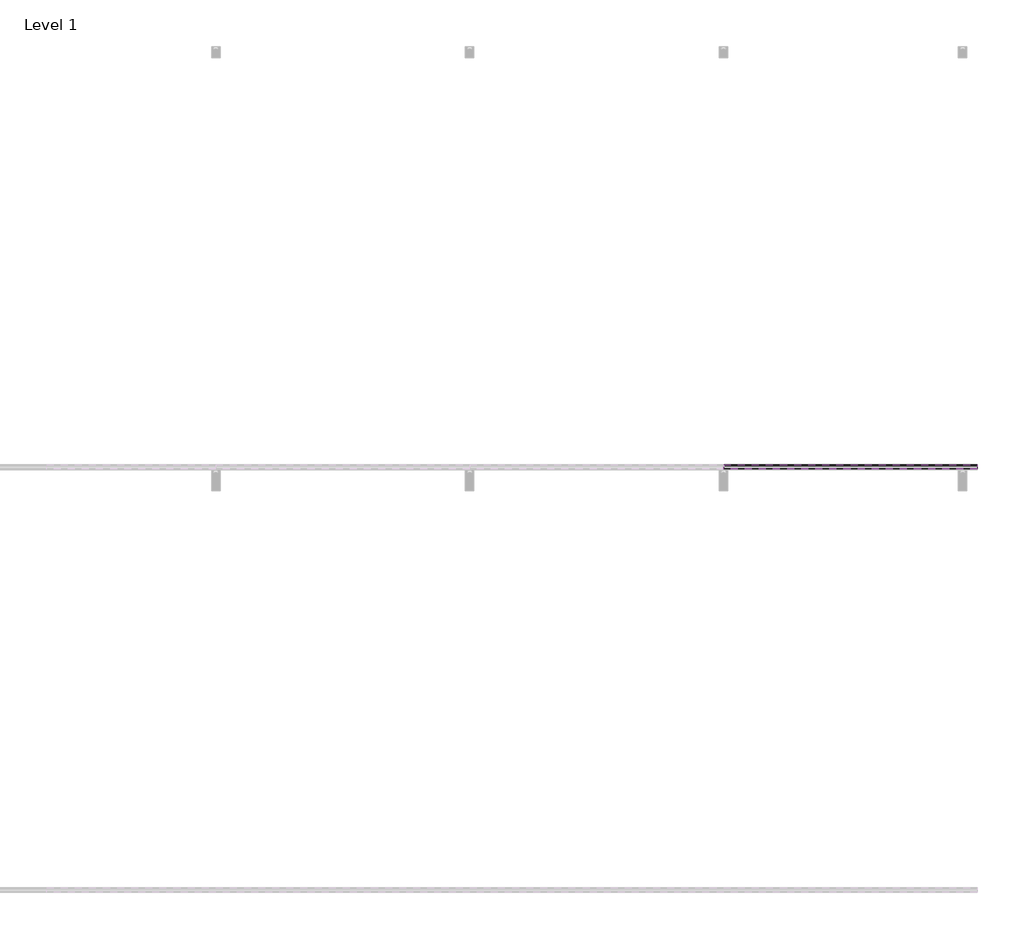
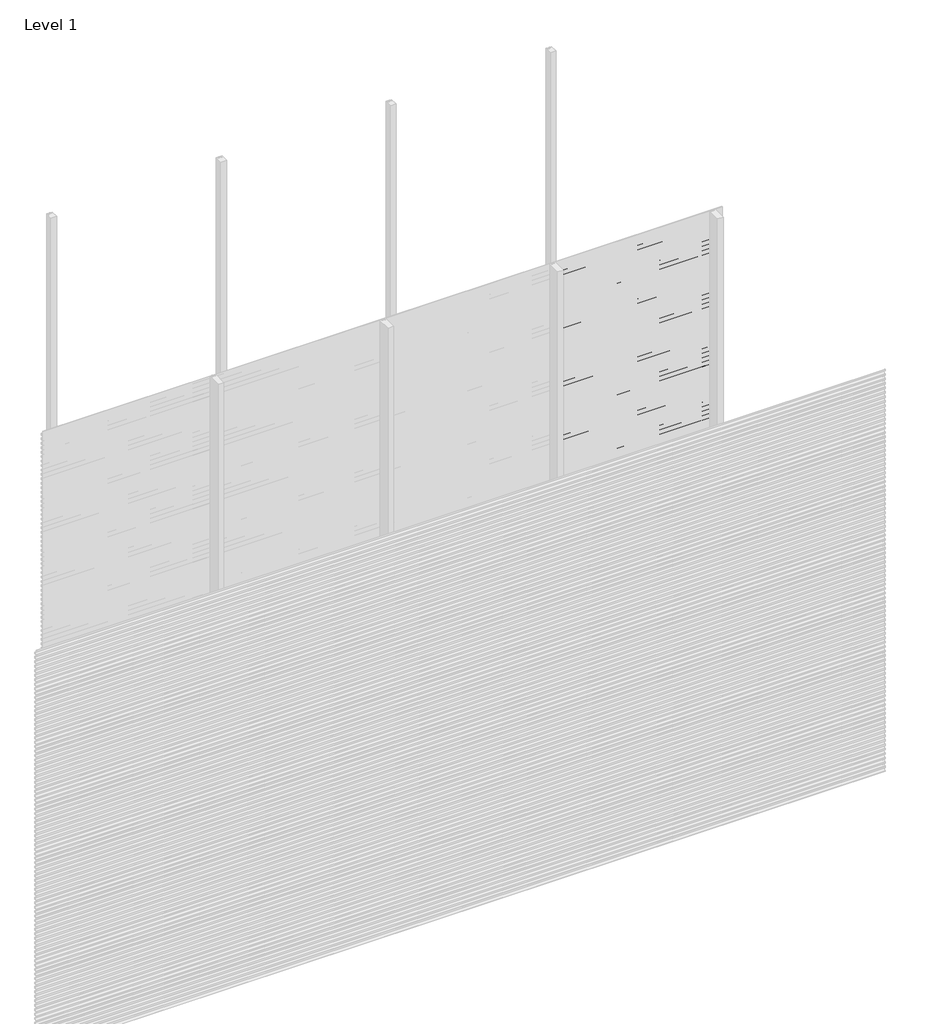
# One storey, part 32 of 77: 72 proxies.
"""IFC4 building model written with IfcOpenShell, lengths in millimetres."""

import ifcopenshell
import ifcopenshell.guid

model = None  # the IFC model being written
_history = None  # IfcOwnerHistory: only IFC2X3 demands one
_inside = {}  # id of a spatial element -> (the spatial element, [elements in it])
_under = {}  # id of a project, library or spatial element -> (it, [spatial elements below it])
_declared = {}  # id of a project -> (the project, [libraries it declares])
_typed = {}  # id of a type object -> (the type object, [elements of that type])
_made_of = {}  # id of a material, layer set ... -> (it, [elements and type objects made of it])


def new_model(schema):
    """Start an empty IFC model of exactly this schema.

    Asked for "IFC4X3", IfcOpenShell would pick the latest addendum, in which some entities
    have other attributes; the version numbers below select the first issue.
    IFC2X3 requires an IfcOwnerHistory on every rooted entity: one is made here for all.
    """
    global model, _history
    if schema == "IFC4X3":
        model = ifcopenshell.file(schema_version=(4, 3, 0, 0))
    else:
        model = ifcopenshell.file(schema=schema)
    _inside.clear()
    _under.clear()
    _declared.clear()
    _typed.clear()
    _made_of.clear()
    _history = None
    if model.schema == "IFC2X3":
        org = make("IfcOrganization", Name="unknown")
        user = make(
            "IfcPersonAndOrganization",
            ThePerson=make("IfcPerson", FamilyName="unknown"),
            TheOrganization=org,
        )
        app = make(
            "IfcApplication",
            ApplicationDeveloper=org,
            Version="unknown",
            ApplicationFullName="unknown",
            ApplicationIdentifier="unknown",
        )
        _history = make(
            "IfcOwnerHistory",
            OwningUser=user,
            OwningApplication=app,
            ChangeAction="ADDED",
            CreationDate=0,
        )
    return model


def make(cls, **values):
    """One entity of the class cls with the attributes given. An attribute that is None is left unset."""
    return model.create_entity(
        cls, **{name: value for name, value in values.items() if value is not None}
    )


def rooted(cls, **values):
    """An entity with a GlobalId (a new one), such as an element, a storey or a relation."""
    return make(cls, GlobalId=ifcopenshell.guid.new(), OwnerHistory=_history, **values)


def si_unit(unit_type, name, prefix=None):
    """IfcSIUnit, for example si_unit("LENGTHUNIT", "METRE", prefix="MILLI")."""
    return make("IfcSIUnit", UnitType=unit_type, Prefix=prefix, Name=name)


def assignment(units):
    """IfcUnitAssignment: the units of a project."""
    return None if units is None else make("IfcUnitAssignment", Units=units)


def point(xyz):
    """IfcCartesianPoint."""
    return None if xyz is None else make("IfcCartesianPoint", Coordinates=xyz)


def direction(xyz):
    """IfcDirection."""
    return None if xyz is None else make("IfcDirection", DirectionRatios=xyz)


def frame(location, z_axis=None, x_axis=None):
    """IfcAxis2Placement3D, a coordinate frame: its origin and axes. An axis left out is left unset."""
    return make(
        "IfcAxis2Placement3D",
        Location=point(location),
        Axis=direction(z_axis),
        RefDirection=direction(x_axis),
    )


def origin():
    """The frame at (0, 0, 0) with its axes left unset."""
    return frame((0.0, 0.0, 0.0))


def place(relative_to, where):
    """IfcLocalPlacement: puts the frame where relative to a parent placement (None: the world)."""
    return make(
        "IfcLocalPlacement", PlacementRelTo=relative_to, RelativePlacement=where
    )


def context(
    kind, dimensions, precision=None, world=None, true_north=None, identifier=None
):
    """IfcGeometricRepresentationContext, for example the 3D "Model" context."""
    return make(
        "IfcGeometricRepresentationContext",
        ContextIdentifier=identifier,
        ContextType=kind,
        CoordinateSpaceDimension=dimensions,
        Precision=precision,
        WorldCoordinateSystem=world,
        TrueNorth=true_north,
    )


def project(units=None, contexts=None):
    """IfcProject with its units and contexts."""
    return rooted(
        "IfcProject",
        Name="project",
        RepresentationContexts=contexts,
        UnitsInContext=assignment(units),
    )


def spatial(cls, under=None, at=None, **own):
    """A site, building, storey or space (cls), placed at a placement, below another one or the project."""
    s = rooted(cls, ObjectPlacement=at, **own)
    if under is not None:
        _under.setdefault(under.id(), (under, []))[1].append(s)
    return s


def polyline(points):
    """IfcPolyline through the points."""
    return make("IfcPolyline", Points=[point(p) for p in points])


def outline(outer, holes=None, kind="AREA"):
    """IfcArbitraryClosedProfileDef: a profile drawn as a closed curve; with holes, ...WithVoids."""
    if holes is None:
        return make("IfcArbitraryClosedProfileDef", ProfileType=kind, OuterCurve=outer)
    return make(
        "IfcArbitraryProfileDefWithVoids",
        ProfileType=kind,
        OuterCurve=outer,
        InnerCurves=holes,
    )


def extrude(swept, where, along, depth):
    """IfcExtrudedAreaSolid: the profile swept, set in the frame where, extruded along a direction by depth."""
    return make(
        "IfcExtrudedAreaSolid",
        SweptArea=swept,
        Position=where,
        ExtrudedDirection=direction(along),
        Depth=depth,
    )


def shape(context_of_items, identifier, shape_type, items):
    """IfcShapeRepresentation: the items that make up one representation, for example the "Body"."""
    return make(
        "IfcShapeRepresentation",
        ContextOfItems=context_of_items,
        RepresentationIdentifier=identifier,
        RepresentationType=shape_type,
        Items=items,
    )


def made_of(thing, what):
    """Note that an element or type object is made of a material, layer set ...; save() writes the relation."""
    if what is not None:
        _made_of.setdefault(what.id(), (what, []))[1].append(thing)
    return thing


def element(
    cls,
    number,
    at=None,
    inside=None,
    cuts=None,
    type_object=None,
    material=None,
    context=None,
    identifier="Body",
    shape_type=None,
    held_by="IfcProductDefinitionShape",
    body=None,
    shapes=None,
    **own,
):
    """One element of the class cls, such as IfcWall. Its Tag is "e" and its number.

    at: its placement. inside: the storey or other place that contains it. cuts: it is an
    opening in that element (IfcRelVoidsElement). A single representation is given by context,
    identifier, shape_type and body (its items); several are given by shapes. held_by: the class
    of the entity that holds the representations. save() writes the other relations.
    """
    e = rooted(cls, Tag="e%d" % number, ObjectPlacement=at, **own)
    if body is not None:
        shapes = [shape(context, identifier, shape_type, body)]
    if shapes is not None:
        e.Representation = make(held_by, Representations=shapes)
    if inside is not None:
        _inside.setdefault(inside.id(), (inside, []))[1].append(e)
    if cuts is not None:
        rooted(
            "IfcRelVoidsElement", RelatingBuildingElement=cuts, RelatedOpeningElement=e
        )
    if type_object is not None:
        _typed.setdefault(type_object.id(), (type_object, []))[1].append(e)
    return made_of(e, material)


def aggregate(whole, parts):
    """IfcRelAggregates: a whole, such as a stair, and the parts it consists of."""
    return rooted("IfcRelAggregates", RelatingObject=whole, RelatedObjects=parts)


def save(model, path):
    """Write the relations noted so far, then the file.

    IfcRelAggregates (storeys below a building ...), IfcRelContainedInSpatialStructure (elements
    in a storey), IfcRelDefinesByType, IfcRelAssociatesMaterial and IfcRelDeclares: one each for
    every whole, place, type object, material and project.
    """
    for whole, parts in _under.values():
        aggregate(whole, parts)
    for where, things in _inside.values():
        rooted(
            "IfcRelContainedInSpatialStructure",
            RelatedElements=things,
            RelatingStructure=where,
        )
    for kind, things in _typed.values():
        rooted("IfcRelDefinesByType", RelatedObjects=things, RelatingType=kind)
    for what, things in _made_of.values():
        rooted("IfcRelAssociatesMaterial", RelatedObjects=things, RelatingMaterial=what)
    for by, libraries in _declared.values():
        rooted("IfcRelDeclares", RelatingContext=by, RelatedDefinitions=libraries)
    model.write(path)


model = new_model("IFC4")

# Units and contexts
model_context = context("Model", 3, world=origin())
ifc_project = project(units=[si_unit("LENGTHUNIT", "METRE", prefix="MILLI")], contexts=[model_context])

# Site, building, storey
site = spatial("IfcSite", under=ifc_project)
building = spatial("IfcBuilding", under=site)
storey = spatial("IfcBuildingStorey", under=building, Name="Level 1", Elevation=0.0)

# Proxies
placement = place(None, origin())
element("IfcBuildingElementProxy", 1, Name="Wall Sweeps", at=placement, inside=storey, context=model_context, shape_type="SweptSolid", body=[
    extrude(outline(polyline([(-35978.6, 408.4359887), (-35998.0, 419.6366691), (-35998.0, 432.9), (-35997.0, 432.9), (-35997.0, 420.2191057), (-35977.6, 409.0185105), (-35977.6, 395.4185105), (-35978.6, 396.9953129), (-35978.6, 402.8032062), (-35995.9773817, 394.7), (-35996.4, 395.6063078), (-35978.6, 403.9065841), (-35978.6, 408.4359887)])), frame((3600.0, 0.0, 0.0), z_axis=(1.0, 0.0, 0.0), x_axis=(0.0, 1.0, 0.0)), (0.0, 0.0, 1.0), 1200.0),
])
element("IfcBuildingElementProxy", 2, Name="Wall Sweeps", at=placement, inside=storey, context=model_context, shape_type="SweptSolid", body=[
    extrude(outline(polyline([(-35978.6, 375.1359887), (-35998.0, 386.3366691), (-35998.0, 399.6), (-35997.0, 399.6), (-35997.0, 386.9191057), (-35977.6, 375.7185105), (-35977.6, 362.1185105), (-35978.6, 363.6953129), (-35978.6, 369.5032062), (-35995.9773817, 361.4), (-35996.4, 362.3063078), (-35978.6, 370.6065841), (-35978.6, 375.1359887)])), frame((3600.0, 0.0, 0.0), z_axis=(1.0, 0.0, 0.0), x_axis=(0.0, 1.0, 0.0)), (0.0, 0.0, 1.0), 1200.0),
])
element("IfcBuildingElementProxy", 3, Name="Wall Sweeps", at=placement, inside=storey, context=model_context, shape_type="SweptSolid", body=[
    extrude(outline(polyline([(-35978.6, 341.8359887), (-35998.0, 353.0366691), (-35998.0, 366.3), (-35997.0, 366.3), (-35997.0, 353.6191057), (-35977.6, 342.4185105), (-35977.6, 328.8185105), (-35978.6, 330.3953129), (-35978.6, 336.2032062), (-35995.9773817, 328.1), (-35996.4, 329.0063078), (-35978.6, 337.3065841), (-35978.6, 341.8359887)])), frame((3600.0, 0.0, 0.0), z_axis=(1.0, 0.0, 0.0), x_axis=(0.0, 1.0, 0.0)), (0.0, 0.0, 1.0), 1200.0),
])
element("IfcBuildingElementProxy", 4, Name="Wall Sweeps", at=placement, inside=storey, context=model_context, shape_type="SweptSolid", body=[
    extrude(outline(polyline([(-35978.6, 308.5359887), (-35998.0, 319.7366691), (-35998.0, 333.0), (-35997.0, 333.0), (-35997.0, 320.3191057), (-35977.6, 309.1185105), (-35977.6, 295.5185105), (-35978.6, 297.0953129), (-35978.6, 302.9032062), (-35995.9773817, 294.8), (-35996.4, 295.7063078), (-35978.6, 304.0065841), (-35978.6, 308.5359887)])), frame((3600.0, 0.0, 0.0), z_axis=(1.0, 0.0, 0.0), x_axis=(0.0, 1.0, 0.0)), (0.0, 0.0, 1.0), 1200.0),
])
element("IfcBuildingElementProxy", 5, Name="Wall Sweeps", at=placement, inside=storey, context=model_context, shape_type="SweptSolid", body=[
    extrude(outline(polyline([(-35978.6, 275.2359887), (-35998.0, 286.4366691), (-35998.0, 299.7), (-35997.0, 299.7), (-35997.0, 287.0191057), (-35977.6, 275.8185105), (-35977.6, 262.2185105), (-35978.6, 263.7953129), (-35978.6, 269.6032062), (-35995.9773817, 261.5), (-35996.4, 262.4063078), (-35978.6, 270.7065841), (-35978.6, 275.2359887)])), frame((3600.0, 0.0, 0.0), z_axis=(1.0, 0.0, 0.0), x_axis=(0.0, 1.0, 0.0)), (0.0, 0.0, 1.0), 1200.0),
])
element("IfcBuildingElementProxy", 6, Name="Wall Sweeps", at=placement, inside=storey, context=model_context, shape_type="SweptSolid", body=[
    extrude(outline(polyline([(-35978.6, 241.9359887), (-35998.0, 253.1366691), (-35998.0, 266.4), (-35997.0, 266.4), (-35997.0, 253.7191057), (-35977.6, 242.5185105), (-35977.6, 228.9185105), (-35978.6, 230.4953129), (-35978.6, 236.3032062), (-35995.9773817, 228.2), (-35996.4, 229.1063078), (-35978.6, 237.4065841), (-35978.6, 241.9359887)])), frame((3600.0, 0.0, 0.0), z_axis=(1.0, 0.0, 0.0), x_axis=(0.0, 1.0, 0.0)), (0.0, 0.0, 1.0), 1200.0),
])
element("IfcBuildingElementProxy", 7, Name="Wall Sweeps", at=placement, inside=storey, context=model_context, shape_type="SweptSolid", body=[
    extrude(outline(polyline([(-35978.6, 208.6359887), (-35998.0, 219.8366691), (-35998.0, 233.1), (-35997.0, 233.1), (-35997.0, 220.4191057), (-35977.6, 209.2185105), (-35977.6, 195.6185105), (-35978.6, 197.1953129), (-35978.6, 203.0032062), (-35995.9773817, 194.9), (-35996.4, 195.8063078), (-35978.6, 204.1065841), (-35978.6, 208.6359887)])), frame((3600.0, 0.0, 0.0), z_axis=(1.0, 0.0, 0.0), x_axis=(0.0, 1.0, 0.0)), (0.0, 0.0, 1.0), 1200.0),
])
element("IfcBuildingElementProxy", 8, Name="Wall Sweeps", at=placement, inside=storey, context=model_context, shape_type="SweptSolid", body=[
    extrude(outline(polyline([(-35978.6, 175.3359887), (-35998.0, 186.5366691), (-35998.0, 199.8), (-35997.0, 199.8), (-35997.0, 187.1191057), (-35977.6, 175.9185105), (-35977.6, 162.3185105), (-35978.6, 163.8953129), (-35978.6, 169.7032062), (-35995.9773817, 161.6), (-35996.4, 162.5063078), (-35978.6, 170.8065841), (-35978.6, 175.3359887)])), frame((3600.0, 0.0, 0.0), z_axis=(1.0, 0.0, 0.0), x_axis=(0.0, 1.0, 0.0)), (0.0, 0.0, 1.0), 1200.0),
])
element("IfcBuildingElementProxy", 9, Name="Wall Sweeps", at=placement, inside=storey, context=model_context, shape_type="SweptSolid", body=[
    extrude(outline(polyline([(-35978.6, 142.0359887), (-35998.0, 153.2366691), (-35998.0, 166.5), (-35997.0, 166.5), (-35997.0, 153.8191057), (-35977.6, 142.6185105), (-35977.6, 129.0185105), (-35978.6, 130.5953129), (-35978.6, 136.4032062), (-35995.9773817, 128.3), (-35996.4, 129.2063078), (-35978.6, 137.5065841), (-35978.6, 142.0359887)])), frame((3600.0, 0.0, 0.0), z_axis=(1.0, 0.0, 0.0), x_axis=(0.0, 1.0, 0.0)), (0.0, 0.0, 1.0), 1200.0),
])
element("IfcBuildingElementProxy", 10, Name="Wall Sweeps", at=placement, inside=storey, context=model_context, shape_type="SweptSolid", body=[
    extrude(outline(polyline([(-35978.6, 108.7359887), (-35998.0, 119.9366691), (-35998.0, 133.2), (-35997.0, 133.2), (-35997.0, 120.5191057), (-35977.6, 109.3185105), (-35977.6, 95.7185105), (-35978.6, 97.2953129), (-35978.6, 103.1032062), (-35995.9773817, 95.0), (-35996.4, 95.9063078), (-35978.6, 104.2065841), (-35978.6, 108.7359887)])), frame((3600.0, 0.0, 0.0), z_axis=(1.0, 0.0, 0.0), x_axis=(0.0, 1.0, 0.0)), (0.0, 0.0, 1.0), 1200.0),
])
element("IfcBuildingElementProxy", 11, Name="Wall Sweeps", at=placement, inside=storey, context=model_context, shape_type="SweptSolid", body=[
    extrude(outline(polyline([(-35978.6, 75.4359887), (-35998.0, 86.6366691), (-35998.0, 99.9), (-35997.0, 99.9), (-35997.0, 87.2191057), (-35977.6, 76.0185105), (-35977.6, 62.4185105), (-35978.6, 63.9953129), (-35978.6, 69.8032062), (-35995.9773817, 61.7), (-35996.4, 62.6063078), (-35978.6, 70.9065841), (-35978.6, 75.4359887)])), frame((3600.0, 0.0, 0.0), z_axis=(1.0, 0.0, 0.0), x_axis=(0.0, 1.0, 0.0)), (0.0, 0.0, 1.0), 1200.0),
])
element("IfcBuildingElementProxy", 12, Name="Wall Sweeps", at=placement, inside=storey, context=model_context, shape_type="SweptSolid", body=[
    extrude(outline(polyline([(-35978.6, 42.1359887), (-35998.0, 53.3366691), (-35998.0, 66.6), (-35997.0, 66.6), (-35997.0, 53.9191057), (-35977.6, 42.7185105), (-35977.6, 29.1185105), (-35978.6, 30.6953129), (-35978.6, 36.5032062), (-35995.9773817, 28.4), (-35996.4, 29.3063078), (-35978.6, 37.6065841), (-35978.6, 42.1359887)])), frame((3600.0, 0.0, 0.0), z_axis=(1.0, 0.0, 0.0), x_axis=(0.0, 1.0, 0.0)), (0.0, 0.0, 1.0), 1200.0),
])
element("IfcBuildingElementProxy", 13, Name="Wall Sweeps", at=placement, inside=storey, context=model_context, shape_type="SweptSolid", body=[
    extrude(outline(polyline([(-35978.6, 8.8359887), (-35998.0, 20.0366691), (-35998.0, 33.3), (-35997.0, 33.3), (-35997.0, 20.6191057), (-35977.6, 9.4185105), (-35977.6, -4.1814895), (-35978.6, -2.6046871), (-35978.6, 3.2032062), (-35995.9773817, -4.9), (-35996.4, -3.9936922), (-35978.6, 4.3065841), (-35978.6, 8.8359887)])), frame((3600.0, 0.0, 0.0), z_axis=(1.0, 0.0, 0.0), x_axis=(0.0, 1.0, 0.0)), (0.0, 0.0, 1.0), 1200.0),
])
element("IfcBuildingElementProxy", 14, Name="Wall Sweeps", at=placement, inside=storey, context=model_context, shape_type="SweptSolid", body=[
    extrude(outline(polyline([(-35978.6, 2972.5359887), (-35998.0, 2983.7366691), (-35998.0, 2997.0), (-35997.0, 2997.0), (-35997.0, 2984.3191057), (-35977.6, 2973.1185105), (-35977.6, 2959.5185105), (-35978.6, 2961.0953129), (-35978.6, 2966.9032062), (-35995.9773817, 2958.8), (-35996.4, 2959.7063078), (-35978.6, 2968.0065841), (-35978.6, 2972.5359887)])), frame((4800.0, 0.0, 0.0), z_axis=(1.0, 0.0, 0.0), x_axis=(0.0, 1.0, 0.0)), (0.0, 0.0, 1.0), 1200.0),
])
element("IfcBuildingElementProxy", 15, Name="Wall Sweeps", at=placement, inside=storey, context=model_context, shape_type="SweptSolid", body=[
    extrude(outline(polyline([(-35978.6, 2939.2359887), (-35998.0, 2950.4366691), (-35998.0, 2963.7), (-35997.0, 2963.7), (-35997.0, 2951.0191057), (-35977.6, 2939.8185105), (-35977.6, 2926.2185105), (-35978.6, 2927.7953129), (-35978.6, 2933.6032062), (-35995.9773817, 2925.5), (-35996.4, 2926.4063078), (-35978.6, 2934.7065841), (-35978.6, 2939.2359887)])), frame((4800.0, 0.0, 0.0), z_axis=(1.0, 0.0, 0.0), x_axis=(0.0, 1.0, 0.0)), (0.0, 0.0, 1.0), 1200.0),
])
element("IfcBuildingElementProxy", 16, Name="Wall Sweeps", at=placement, inside=storey, context=model_context, shape_type="SweptSolid", body=[
    extrude(outline(polyline([(-35978.6, 2905.9359887), (-35998.0, 2917.1366691), (-35998.0, 2930.4), (-35997.0, 2930.4), (-35997.0, 2917.7191057), (-35977.6, 2906.5185105), (-35977.6, 2892.9185105), (-35978.6, 2894.4953129), (-35978.6, 2900.3032062), (-35995.9773817, 2892.2), (-35996.4, 2893.1063078), (-35978.6, 2901.4065841), (-35978.6, 2905.9359887)])), frame((4800.0, 0.0, 0.0), z_axis=(1.0, 0.0, 0.0), x_axis=(0.0, 1.0, 0.0)), (0.0, 0.0, 1.0), 1200.0),
])
element("IfcBuildingElementProxy", 17, Name="Wall Sweeps", at=placement, inside=storey, context=model_context, shape_type="SweptSolid", body=[
    extrude(outline(polyline([(-35978.6, 2872.6359887), (-35998.0, 2883.8366691), (-35998.0, 2897.1), (-35997.0, 2897.1), (-35997.0, 2884.4191057), (-35977.6, 2873.2185105), (-35977.6, 2859.6185105), (-35978.6, 2861.1953129), (-35978.6, 2867.0032062), (-35995.9773817, 2858.9), (-35996.4, 2859.8063078), (-35978.6, 2868.1065841), (-35978.6, 2872.6359887)])), frame((4800.0, 0.0, 0.0), z_axis=(1.0, 0.0, 0.0), x_axis=(0.0, 1.0, 0.0)), (0.0, 0.0, 1.0), 1200.0),
])
element("IfcBuildingElementProxy", 18, Name="Wall Sweeps", at=placement, inside=storey, context=model_context, shape_type="SweptSolid", body=[
    extrude(outline(polyline([(-35978.6, 2839.3359887), (-35998.0, 2850.5366691), (-35998.0, 2863.8), (-35997.0, 2863.8), (-35997.0, 2851.1191057), (-35977.6, 2839.9185105), (-35977.6, 2826.3185105), (-35978.6, 2827.8953129), (-35978.6, 2833.7032062), (-35995.9773817, 2825.6), (-35996.4, 2826.5063078), (-35978.6, 2834.8065841), (-35978.6, 2839.3359887)])), frame((4800.0, 0.0, 0.0), z_axis=(1.0, 0.0, 0.0), x_axis=(0.0, 1.0, 0.0)), (0.0, 0.0, 1.0), 1200.0),
])
element("IfcBuildingElementProxy", 19, Name="Wall Sweeps", at=placement, inside=storey, context=model_context, shape_type="SweptSolid", body=[
    extrude(outline(polyline([(-35978.6, 2806.0359887), (-35998.0, 2817.2366691), (-35998.0, 2830.5), (-35997.0, 2830.5), (-35997.0, 2817.8191057), (-35977.6, 2806.6185105), (-35977.6, 2793.0185105), (-35978.6, 2794.5953129), (-35978.6, 2800.4032062), (-35995.9773817, 2792.3), (-35996.4, 2793.2063078), (-35978.6, 2801.5065841), (-35978.6, 2806.0359887)])), frame((4800.0, 0.0, 0.0), z_axis=(1.0, 0.0, 0.0), x_axis=(0.0, 1.0, 0.0)), (0.0, 0.0, 1.0), 1200.0),
])
element("IfcBuildingElementProxy", 20, Name="Wall Sweeps", at=placement, inside=storey, context=model_context, shape_type="SweptSolid", body=[
    extrude(outline(polyline([(-35978.6, 2772.7359887), (-35998.0, 2783.9366691), (-35998.0, 2797.2), (-35997.0, 2797.2), (-35997.0, 2784.5191057), (-35977.6, 2773.3185105), (-35977.6, 2759.7185105), (-35978.6, 2761.2953129), (-35978.6, 2767.1032062), (-35995.9773817, 2759.0), (-35996.4, 2759.9063078), (-35978.6, 2768.2065841), (-35978.6, 2772.7359887)])), frame((4800.0, 0.0, 0.0), z_axis=(1.0, 0.0, 0.0), x_axis=(0.0, 1.0, 0.0)), (0.0, 0.0, 1.0), 1200.0),
])
element("IfcBuildingElementProxy", 21, Name="Wall Sweeps", at=placement, inside=storey, context=model_context, shape_type="SweptSolid", body=[
    extrude(outline(polyline([(-35978.6, 2739.4359887), (-35998.0, 2750.6366691), (-35998.0, 2763.9), (-35997.0, 2763.9), (-35997.0, 2751.2191057), (-35977.6, 2740.0185105), (-35977.6, 2726.4185105), (-35978.6, 2727.9953129), (-35978.6, 2733.8032062), (-35995.9773817, 2725.7), (-35996.4, 2726.6063078), (-35978.6, 2734.9065841), (-35978.6, 2739.4359887)])), frame((4800.0, 0.0, 0.0), z_axis=(1.0, 0.0, 0.0), x_axis=(0.0, 1.0, 0.0)), (0.0, 0.0, 1.0), 1200.0),
])
element("IfcBuildingElementProxy", 22, Name="Wall Sweeps", at=placement, inside=storey, context=model_context, shape_type="SweptSolid", body=[
    extrude(outline(polyline([(-35978.6, 2706.1359887), (-35998.0, 2717.3366691), (-35998.0, 2730.6), (-35997.0, 2730.6), (-35997.0, 2717.9191057), (-35977.6, 2706.7185105), (-35977.6, 2693.1185105), (-35978.6, 2694.6953129), (-35978.6, 2700.5032062), (-35995.9773817, 2692.4), (-35996.4, 2693.3063078), (-35978.6, 2701.6065841), (-35978.6, 2706.1359887)])), frame((4800.0, 0.0, 0.0), z_axis=(1.0, 0.0, 0.0), x_axis=(0.0, 1.0, 0.0)), (0.0, 0.0, 1.0), 1200.0),
])
element("IfcBuildingElementProxy", 23, Name="Wall Sweeps", at=placement, inside=storey, context=model_context, shape_type="SweptSolid", body=[
    extrude(outline(polyline([(-35978.6, 2672.8359887), (-35998.0, 2684.0366691), (-35998.0, 2697.3), (-35997.0, 2697.3), (-35997.0, 2684.6191057), (-35977.6, 2673.4185105), (-35977.6, 2659.8185105), (-35978.6, 2661.3953129), (-35978.6, 2667.2032062), (-35995.9773817, 2659.1), (-35996.4, 2660.0063078), (-35978.6, 2668.3065841), (-35978.6, 2672.8359887)])), frame((4800.0, 0.0, 0.0), z_axis=(1.0, 0.0, 0.0), x_axis=(0.0, 1.0, 0.0)), (0.0, 0.0, 1.0), 1200.0),
])
element("IfcBuildingElementProxy", 24, Name="Wall Sweeps", at=placement, inside=storey, context=model_context, shape_type="SweptSolid", body=[
    extrude(outline(polyline([(-35978.6, 2639.5359887), (-35998.0, 2650.7366691), (-35998.0, 2664.0), (-35997.0, 2664.0), (-35997.0, 2651.3191057), (-35977.6, 2640.1185105), (-35977.6, 2626.5185105), (-35978.6, 2628.0953129), (-35978.6, 2633.9032062), (-35995.9773817, 2625.8), (-35996.4, 2626.7063078), (-35978.6, 2635.0065841), (-35978.6, 2639.5359887)])), frame((4800.0, 0.0, 0.0), z_axis=(1.0, 0.0, 0.0), x_axis=(0.0, 1.0, 0.0)), (0.0, 0.0, 1.0), 1200.0),
])
element("IfcBuildingElementProxy", 25, Name="Wall Sweeps", at=placement, inside=storey, context=model_context, shape_type="SweptSolid", body=[
    extrude(outline(polyline([(-35978.6, 2606.2359887), (-35998.0, 2617.4366691), (-35998.0, 2630.7), (-35997.0, 2630.7), (-35997.0, 2618.0191057), (-35977.6, 2606.8185105), (-35977.6, 2593.2185105), (-35978.6, 2594.7953129), (-35978.6, 2600.6032062), (-35995.9773817, 2592.5), (-35996.4, 2593.4063078), (-35978.6, 2601.7065841), (-35978.6, 2606.2359887)])), frame((4800.0, 0.0, 0.0), z_axis=(1.0, 0.0, 0.0), x_axis=(0.0, 1.0, 0.0)), (0.0, 0.0, 1.0), 1200.0),
])
element("IfcBuildingElementProxy", 26, Name="Wall Sweeps", at=placement, inside=storey, context=model_context, shape_type="SweptSolid", body=[
    extrude(outline(polyline([(-35978.6, 2572.9359887), (-35998.0, 2584.1366691), (-35998.0, 2597.4), (-35997.0, 2597.4), (-35997.0, 2584.7191057), (-35977.6, 2573.5185105), (-35977.6, 2559.9185105), (-35978.6, 2561.4953129), (-35978.6, 2567.3032062), (-35995.9773817, 2559.2), (-35996.4, 2560.1063078), (-35978.6, 2568.4065841), (-35978.6, 2572.9359887)])), frame((4800.0, 0.0, 0.0), z_axis=(1.0, 0.0, 0.0), x_axis=(0.0, 1.0, 0.0)), (0.0, 0.0, 1.0), 1200.0),
])
element("IfcBuildingElementProxy", 27, Name="Wall Sweeps", at=placement, inside=storey, context=model_context, shape_type="SweptSolid", body=[
    extrude(outline(polyline([(-35978.6, 2539.6359887), (-35998.0, 2550.8366691), (-35998.0, 2564.1), (-35997.0, 2564.1), (-35997.0, 2551.4191057), (-35977.6, 2540.2185105), (-35977.6, 2526.6185105), (-35978.6, 2528.1953129), (-35978.6, 2534.0032062), (-35995.9773817, 2525.9), (-35996.4, 2526.8063078), (-35978.6, 2535.1065841), (-35978.6, 2539.6359887)])), frame((4800.0, 0.0, 0.0), z_axis=(1.0, 0.0, 0.0), x_axis=(0.0, 1.0, 0.0)), (0.0, 0.0, 1.0), 1200.0),
])
element("IfcBuildingElementProxy", 28, Name="Wall Sweeps", at=placement, inside=storey, context=model_context, shape_type="SweptSolid", body=[
    extrude(outline(polyline([(-35978.6, 2506.3359887), (-35998.0, 2517.5366691), (-35998.0, 2530.8), (-35997.0, 2530.8), (-35997.0, 2518.1191057), (-35977.6, 2506.9185105), (-35977.6, 2493.3185105), (-35978.6, 2494.8953129), (-35978.6, 2500.7032062), (-35995.9773817, 2492.6), (-35996.4, 2493.5063078), (-35978.6, 2501.8065841), (-35978.6, 2506.3359887)])), frame((4800.0, 0.0, 0.0), z_axis=(1.0, 0.0, 0.0), x_axis=(0.0, 1.0, 0.0)), (0.0, 0.0, 1.0), 1200.0),
])
element("IfcBuildingElementProxy", 29, Name="Wall Sweeps", at=placement, inside=storey, context=model_context, shape_type="SweptSolid", body=[
    extrude(outline(polyline([(-35978.6, 2473.0359887), (-35998.0, 2484.2366691), (-35998.0, 2497.5), (-35997.0, 2497.5), (-35997.0, 2484.8191057), (-35977.6, 2473.6185105), (-35977.6, 2460.0185105), (-35978.6, 2461.5953129), (-35978.6, 2467.4032062), (-35995.9773817, 2459.3), (-35996.4, 2460.2063078), (-35978.6, 2468.5065841), (-35978.6, 2473.0359887)])), frame((4800.0, 0.0, 0.0), z_axis=(1.0, 0.0, 0.0), x_axis=(0.0, 1.0, 0.0)), (0.0, 0.0, 1.0), 1200.0),
])
element("IfcBuildingElementProxy", 30, Name="Wall Sweeps", at=placement, inside=storey, context=model_context, shape_type="SweptSolid", body=[
    extrude(outline(polyline([(-35978.6, 2439.7359887), (-35998.0, 2450.9366691), (-35998.0, 2464.2), (-35997.0, 2464.2), (-35997.0, 2451.5191057), (-35977.6, 2440.3185105), (-35977.6, 2426.7185105), (-35978.6, 2428.2953129), (-35978.6, 2434.1032062), (-35995.9773817, 2426.0), (-35996.4, 2426.9063078), (-35978.6, 2435.2065841), (-35978.6, 2439.7359887)])), frame((4800.0, 0.0, 0.0), z_axis=(1.0, 0.0, 0.0), x_axis=(0.0, 1.0, 0.0)), (0.0, 0.0, 1.0), 1200.0),
])
element("IfcBuildingElementProxy", 31, Name="Wall Sweeps", at=placement, inside=storey, context=model_context, shape_type="SweptSolid", body=[
    extrude(outline(polyline([(-35978.6, 2406.4359887), (-35998.0, 2417.6366691), (-35998.0, 2430.9), (-35997.0, 2430.9), (-35997.0, 2418.2191057), (-35977.6, 2407.0185105), (-35977.6, 2393.4185105), (-35978.6, 2394.9953129), (-35978.6, 2400.8032062), (-35995.9773817, 2392.7), (-35996.4, 2393.6063078), (-35978.6, 2401.9065841), (-35978.6, 2406.4359887)])), frame((4800.0, 0.0, 0.0), z_axis=(1.0, 0.0, 0.0), x_axis=(0.0, 1.0, 0.0)), (0.0, 0.0, 1.0), 1200.0),
])
element("IfcBuildingElementProxy", 32, Name="Wall Sweeps", at=placement, inside=storey, context=model_context, shape_type="SweptSolid", body=[
    extrude(outline(polyline([(-35978.6, 2373.1359887), (-35998.0, 2384.3366691), (-35998.0, 2397.6), (-35997.0, 2397.6), (-35997.0, 2384.9191057), (-35977.6, 2373.7185105), (-35977.6, 2360.1185105), (-35978.6, 2361.6953129), (-35978.6, 2367.5032062), (-35995.9773817, 2359.4), (-35996.4, 2360.3063078), (-35978.6, 2368.6065841), (-35978.6, 2373.1359887)])), frame((4800.0, 0.0, 0.0), z_axis=(1.0, 0.0, 0.0), x_axis=(0.0, 1.0, 0.0)), (0.0, 0.0, 1.0), 1200.0),
])
element("IfcBuildingElementProxy", 33, Name="Wall Sweeps", at=placement, inside=storey, context=model_context, shape_type="SweptSolid", body=[
    extrude(outline(polyline([(-35978.6, 2339.8359887), (-35998.0, 2351.0366691), (-35998.0, 2364.3), (-35997.0, 2364.3), (-35997.0, 2351.6191057), (-35977.6, 2340.4185105), (-35977.6, 2326.8185105), (-35978.6, 2328.3953129), (-35978.6, 2334.2032062), (-35995.9773817, 2326.1), (-35996.4, 2327.0063078), (-35978.6, 2335.3065841), (-35978.6, 2339.8359887)])), frame((4800.0, 0.0, 0.0), z_axis=(1.0, 0.0, 0.0), x_axis=(0.0, 1.0, 0.0)), (0.0, 0.0, 1.0), 1200.0),
])
element("IfcBuildingElementProxy", 34, Name="Wall Sweeps", at=placement, inside=storey, context=model_context, shape_type="SweptSolid", body=[
    extrude(outline(polyline([(-35978.6, 2306.5359887), (-35998.0, 2317.7366691), (-35998.0, 2331.0), (-35997.0, 2331.0), (-35997.0, 2318.3191057), (-35977.6, 2307.1185105), (-35977.6, 2293.5185105), (-35978.6, 2295.0953129), (-35978.6, 2300.9032062), (-35995.9773817, 2292.8), (-35996.4, 2293.7063078), (-35978.6, 2302.0065841), (-35978.6, 2306.5359887)])), frame((4800.0, 0.0, 0.0), z_axis=(1.0, 0.0, 0.0), x_axis=(0.0, 1.0, 0.0)), (0.0, 0.0, 1.0), 1200.0),
])
element("IfcBuildingElementProxy", 35, Name="Wall Sweeps", at=placement, inside=storey, context=model_context, shape_type="SweptSolid", body=[
    extrude(outline(polyline([(-35978.6, 2273.2359887), (-35998.0, 2284.4366691), (-35998.0, 2297.7), (-35997.0, 2297.7), (-35997.0, 2285.0191057), (-35977.6, 2273.8185105), (-35977.6, 2260.2185105), (-35978.6, 2261.7953129), (-35978.6, 2267.6032062), (-35995.9773817, 2259.5), (-35996.4, 2260.4063078), (-35978.6, 2268.7065841), (-35978.6, 2273.2359887)])), frame((4800.0, 0.0, 0.0), z_axis=(1.0, 0.0, 0.0), x_axis=(0.0, 1.0, 0.0)), (0.0, 0.0, 1.0), 1200.0),
])
element("IfcBuildingElementProxy", 36, Name="Wall Sweeps", at=placement, inside=storey, context=model_context, shape_type="SweptSolid", body=[
    extrude(outline(polyline([(-35978.6, 2239.9359887), (-35998.0, 2251.1366691), (-35998.0, 2264.4), (-35997.0, 2264.4), (-35997.0, 2251.7191057), (-35977.6, 2240.5185105), (-35977.6, 2226.9185105), (-35978.6, 2228.4953129), (-35978.6, 2234.3032062), (-35995.9773817, 2226.2), (-35996.4, 2227.1063078), (-35978.6, 2235.4065841), (-35978.6, 2239.9359887)])), frame((4800.0, 0.0, 0.0), z_axis=(1.0, 0.0, 0.0), x_axis=(0.0, 1.0, 0.0)), (0.0, 0.0, 1.0), 1200.0),
])
element("IfcBuildingElementProxy", 37, Name="Wall Sweeps", at=placement, inside=storey, context=model_context, shape_type="SweptSolid", body=[
    extrude(outline(polyline([(-35978.6, 2206.6359887), (-35998.0, 2217.8366691), (-35998.0, 2231.1), (-35997.0, 2231.1), (-35997.0, 2218.4191057), (-35977.6, 2207.2185105), (-35977.6, 2193.6185105), (-35978.6, 2195.1953129), (-35978.6, 2201.0032062), (-35995.9773817, 2192.9), (-35996.4, 2193.8063078), (-35978.6, 2202.1065841), (-35978.6, 2206.6359887)])), frame((4800.0, 0.0, 0.0), z_axis=(1.0, 0.0, 0.0), x_axis=(0.0, 1.0, 0.0)), (0.0, 0.0, 1.0), 1200.0),
])
element("IfcBuildingElementProxy", 38, Name="Wall Sweeps", at=placement, inside=storey, context=model_context, shape_type="SweptSolid", body=[
    extrude(outline(polyline([(-35978.6, 2173.3359887), (-35998.0, 2184.5366691), (-35998.0, 2197.8), (-35997.0, 2197.8), (-35997.0, 2185.1191057), (-35977.6, 2173.9185105), (-35977.6, 2160.3185105), (-35978.6, 2161.8953129), (-35978.6, 2167.7032062), (-35995.9773817, 2159.6), (-35996.4, 2160.5063078), (-35978.6, 2168.8065841), (-35978.6, 2173.3359887)])), frame((4800.0, 0.0, 0.0), z_axis=(1.0, 0.0, 0.0), x_axis=(0.0, 1.0, 0.0)), (0.0, 0.0, 1.0), 1200.0),
])
element("IfcBuildingElementProxy", 39, Name="Wall Sweeps", at=placement, inside=storey, context=model_context, shape_type="SweptSolid", body=[
    extrude(outline(polyline([(-35978.6, 2140.0359887), (-35998.0, 2151.2366691), (-35998.0, 2164.5), (-35997.0, 2164.5), (-35997.0, 2151.8191057), (-35977.6, 2140.6185105), (-35977.6, 2127.0185105), (-35978.6, 2128.5953129), (-35978.6, 2134.4032062), (-35995.9773817, 2126.3), (-35996.4, 2127.2063078), (-35978.6, 2135.5065841), (-35978.6, 2140.0359887)])), frame((4800.0, 0.0, 0.0), z_axis=(1.0, 0.0, 0.0), x_axis=(0.0, 1.0, 0.0)), (0.0, 0.0, 1.0), 1200.0),
])
element("IfcBuildingElementProxy", 40, Name="Wall Sweeps", at=placement, inside=storey, context=model_context, shape_type="SweptSolid", body=[
    extrude(outline(polyline([(-35978.6, 2106.7359887), (-35998.0, 2117.9366691), (-35998.0, 2131.2), (-35997.0, 2131.2), (-35997.0, 2118.5191057), (-35977.6, 2107.3185105), (-35977.6, 2093.7185105), (-35978.6, 2095.2953129), (-35978.6, 2101.1032062), (-35995.9773817, 2093.0), (-35996.4, 2093.9063078), (-35978.6, 2102.2065841), (-35978.6, 2106.7359887)])), frame((4800.0, 0.0, 0.0), z_axis=(1.0, 0.0, 0.0), x_axis=(0.0, 1.0, 0.0)), (0.0, 0.0, 1.0), 1200.0),
])
element("IfcBuildingElementProxy", 41, Name="Wall Sweeps", at=placement, inside=storey, context=model_context, shape_type="SweptSolid", body=[
    extrude(outline(polyline([(-35978.6, 2073.4359887), (-35998.0, 2084.6366691), (-35998.0, 2097.9), (-35997.0, 2097.9), (-35997.0, 2085.2191057), (-35977.6, 2074.0185105), (-35977.6, 2060.4185105), (-35978.6, 2061.9953129), (-35978.6, 2067.8032062), (-35995.9773817, 2059.7), (-35996.4, 2060.6063078), (-35978.6, 2068.9065841), (-35978.6, 2073.4359887)])), frame((4800.0, 0.0, 0.0), z_axis=(1.0, 0.0, 0.0), x_axis=(0.0, 1.0, 0.0)), (0.0, 0.0, 1.0), 1200.0),
])
element("IfcBuildingElementProxy", 42, Name="Wall Sweeps", at=placement, inside=storey, context=model_context, shape_type="SweptSolid", body=[
    extrude(outline(polyline([(-35978.6, 2040.1359887), (-35998.0, 2051.3366691), (-35998.0, 2064.6), (-35997.0, 2064.6), (-35997.0, 2051.9191057), (-35977.6, 2040.7185105), (-35977.6, 2027.1185105), (-35978.6, 2028.6953129), (-35978.6, 2034.5032062), (-35995.9773817, 2026.4), (-35996.4, 2027.3063078), (-35978.6, 2035.6065841), (-35978.6, 2040.1359887)])), frame((4800.0, 0.0, 0.0), z_axis=(1.0, 0.0, 0.0), x_axis=(0.0, 1.0, 0.0)), (0.0, 0.0, 1.0), 1200.0),
])
element("IfcBuildingElementProxy", 43, Name="Wall Sweeps", at=placement, inside=storey, context=model_context, shape_type="SweptSolid", body=[
    extrude(outline(polyline([(-35978.6, 2006.8359887), (-35998.0, 2018.0366691), (-35998.0, 2031.3), (-35997.0, 2031.3), (-35997.0, 2018.6191057), (-35977.6, 2007.4185105), (-35977.6, 1993.8185105), (-35978.6, 1995.3953129), (-35978.6, 2001.2032062), (-35995.9773817, 1993.1), (-35996.4, 1994.0063078), (-35978.6, 2002.3065841), (-35978.6, 2006.8359887)])), frame((4800.0, 0.0, 0.0), z_axis=(1.0, 0.0, 0.0), x_axis=(0.0, 1.0, 0.0)), (0.0, 0.0, 1.0), 1200.0),
])
element("IfcBuildingElementProxy", 44, Name="Wall Sweeps", at=placement, inside=storey, context=model_context, shape_type="SweptSolid", body=[
    extrude(outline(polyline([(-35978.6, 1973.5359887), (-35998.0, 1984.7366691), (-35998.0, 1998.0), (-35997.0, 1998.0), (-35997.0, 1985.3191057), (-35977.6, 1974.1185105), (-35977.6, 1960.5185105), (-35978.6, 1962.0953129), (-35978.6, 1967.9032062), (-35995.9773817, 1959.8), (-35996.4, 1960.7063078), (-35978.6, 1969.0065841), (-35978.6, 1973.5359887)])), frame((4800.0, 0.0, 0.0), z_axis=(1.0, 0.0, 0.0), x_axis=(0.0, 1.0, 0.0)), (0.0, 0.0, 1.0), 1200.0),
])
element("IfcBuildingElementProxy", 45, Name="Wall Sweeps", at=placement, inside=storey, context=model_context, shape_type="SweptSolid", body=[
    extrude(outline(polyline([(-35978.6, 1940.2359887), (-35998.0, 1951.4366691), (-35998.0, 1964.7), (-35997.0, 1964.7), (-35997.0, 1952.0191057), (-35977.6, 1940.8185105), (-35977.6, 1927.2185105), (-35978.6, 1928.7953129), (-35978.6, 1934.6032062), (-35995.9773817, 1926.5), (-35996.4, 1927.4063078), (-35978.6, 1935.7065841), (-35978.6, 1940.2359887)])), frame((4800.0, 0.0, 0.0), z_axis=(1.0, 0.0, 0.0), x_axis=(0.0, 1.0, 0.0)), (0.0, 0.0, 1.0), 1200.0),
])
element("IfcBuildingElementProxy", 46, Name="Wall Sweeps", at=placement, inside=storey, context=model_context, shape_type="SweptSolid", body=[
    extrude(outline(polyline([(-35978.6, 1906.9359887), (-35998.0, 1918.1366691), (-35998.0, 1931.4), (-35997.0, 1931.4), (-35997.0, 1918.7191057), (-35977.6, 1907.5185105), (-35977.6, 1893.9185105), (-35978.6, 1895.4953129), (-35978.6, 1901.3032062), (-35995.9773817, 1893.2), (-35996.4, 1894.1063078), (-35978.6, 1902.4065841), (-35978.6, 1906.9359887)])), frame((4800.0, 0.0, 0.0), z_axis=(1.0, 0.0, 0.0), x_axis=(0.0, 1.0, 0.0)), (0.0, 0.0, 1.0), 1200.0),
])
element("IfcBuildingElementProxy", 47, Name="Wall Sweeps", at=placement, inside=storey, context=model_context, shape_type="SweptSolid", body=[
    extrude(outline(polyline([(-35978.6, 1873.6359887), (-35998.0, 1884.8366691), (-35998.0, 1898.1), (-35997.0, 1898.1), (-35997.0, 1885.4191057), (-35977.6, 1874.2185105), (-35977.6, 1860.6185105), (-35978.6, 1862.1953129), (-35978.6, 1868.0032062), (-35995.9773817, 1859.9), (-35996.4, 1860.8063078), (-35978.6, 1869.1065841), (-35978.6, 1873.6359887)])), frame((4800.0, 0.0, 0.0), z_axis=(1.0, 0.0, 0.0), x_axis=(0.0, 1.0, 0.0)), (0.0, 0.0, 1.0), 1200.0),
])
element("IfcBuildingElementProxy", 48, Name="Wall Sweeps", at=placement, inside=storey, context=model_context, shape_type="SweptSolid", body=[
    extrude(outline(polyline([(-35978.6, 1840.3359887), (-35998.0, 1851.5366691), (-35998.0, 1864.8), (-35997.0, 1864.8), (-35997.0, 1852.1191057), (-35977.6, 1840.9185105), (-35977.6, 1827.3185105), (-35978.6, 1828.8953129), (-35978.6, 1834.7032062), (-35995.9773817, 1826.6), (-35996.4, 1827.5063078), (-35978.6, 1835.8065841), (-35978.6, 1840.3359887)])), frame((4800.0, 0.0, 0.0), z_axis=(1.0, 0.0, 0.0), x_axis=(0.0, 1.0, 0.0)), (0.0, 0.0, 1.0), 1200.0),
])
element("IfcBuildingElementProxy", 49, Name="Wall Sweeps", at=placement, inside=storey, context=model_context, shape_type="SweptSolid", body=[
    extrude(outline(polyline([(-35978.6, 1807.0359887), (-35998.0, 1818.2366691), (-35998.0, 1831.5), (-35997.0, 1831.5), (-35997.0, 1818.8191057), (-35977.6, 1807.6185105), (-35977.6, 1794.0185105), (-35978.6, 1795.5953129), (-35978.6, 1801.4032062), (-35995.9773817, 1793.3), (-35996.4, 1794.2063078), (-35978.6, 1802.5065841), (-35978.6, 1807.0359887)])), frame((4800.0, 0.0, 0.0), z_axis=(1.0, 0.0, 0.0), x_axis=(0.0, 1.0, 0.0)), (0.0, 0.0, 1.0), 1200.0),
])
element("IfcBuildingElementProxy", 50, Name="Wall Sweeps", at=placement, inside=storey, context=model_context, shape_type="SweptSolid", body=[
    extrude(outline(polyline([(-35978.6, 1773.7359887), (-35998.0, 1784.9366691), (-35998.0, 1798.2), (-35997.0, 1798.2), (-35997.0, 1785.5191057), (-35977.6, 1774.3185105), (-35977.6, 1760.7185105), (-35978.6, 1762.2953129), (-35978.6, 1768.1032062), (-35995.9773817, 1760.0), (-35996.4, 1760.9063078), (-35978.6, 1769.2065841), (-35978.6, 1773.7359887)])), frame((4800.0, 0.0, 0.0), z_axis=(1.0, 0.0, 0.0), x_axis=(0.0, 1.0, 0.0)), (0.0, 0.0, 1.0), 1200.0),
])
element("IfcBuildingElementProxy", 51, Name="Wall Sweeps", at=placement, inside=storey, context=model_context, shape_type="SweptSolid", body=[
    extrude(outline(polyline([(-35978.6, 1740.4359887), (-35998.0, 1751.6366691), (-35998.0, 1764.9), (-35997.0, 1764.9), (-35997.0, 1752.2191057), (-35977.6, 1741.0185105), (-35977.6, 1727.4185105), (-35978.6, 1728.9953129), (-35978.6, 1734.8032062), (-35995.9773817, 1726.7), (-35996.4, 1727.6063078), (-35978.6, 1735.9065841), (-35978.6, 1740.4359887)])), frame((4800.0, 0.0, 0.0), z_axis=(1.0, 0.0, 0.0), x_axis=(0.0, 1.0, 0.0)), (0.0, 0.0, 1.0), 1200.0),
])
element("IfcBuildingElementProxy", 52, Name="Wall Sweeps", at=placement, inside=storey, context=model_context, shape_type="SweptSolid", body=[
    extrude(outline(polyline([(-35978.6, 1707.1359887), (-35998.0, 1718.3366691), (-35998.0, 1731.6), (-35997.0, 1731.6), (-35997.0, 1718.9191057), (-35977.6, 1707.7185105), (-35977.6, 1694.1185105), (-35978.6, 1695.6953129), (-35978.6, 1701.5032062), (-35995.9773817, 1693.4), (-35996.4, 1694.3063078), (-35978.6, 1702.6065841), (-35978.6, 1707.1359887)])), frame((4800.0, 0.0, 0.0), z_axis=(1.0, 0.0, 0.0), x_axis=(0.0, 1.0, 0.0)), (0.0, 0.0, 1.0), 1200.0),
])
element("IfcBuildingElementProxy", 53, Name="Wall Sweeps", at=placement, inside=storey, context=model_context, shape_type="SweptSolid", body=[
    extrude(outline(polyline([(-35978.6, 1673.8359887), (-35998.0, 1685.0366691), (-35998.0, 1698.3), (-35997.0, 1698.3), (-35997.0, 1685.6191057), (-35977.6, 1674.4185105), (-35977.6, 1660.8185105), (-35978.6, 1662.3953129), (-35978.6, 1668.2032062), (-35995.9773817, 1660.1), (-35996.4, 1661.0063078), (-35978.6, 1669.3065841), (-35978.6, 1673.8359887)])), frame((4800.0, 0.0, 0.0), z_axis=(1.0, 0.0, 0.0), x_axis=(0.0, 1.0, 0.0)), (0.0, 0.0, 1.0), 1200.0),
])
element("IfcBuildingElementProxy", 54, Name="Wall Sweeps", at=placement, inside=storey, context=model_context, shape_type="SweptSolid", body=[
    extrude(outline(polyline([(-35978.6, 1640.5359887), (-35998.0, 1651.7366691), (-35998.0, 1665.0), (-35997.0, 1665.0), (-35997.0, 1652.3191057), (-35977.6, 1641.1185105), (-35977.6, 1627.5185105), (-35978.6, 1629.0953129), (-35978.6, 1634.9032062), (-35995.9773817, 1626.8), (-35996.4, 1627.7063078), (-35978.6, 1636.0065841), (-35978.6, 1640.5359887)])), frame((4800.0, 0.0, 0.0), z_axis=(1.0, 0.0, 0.0), x_axis=(0.0, 1.0, 0.0)), (0.0, 0.0, 1.0), 1200.0),
])
element("IfcBuildingElementProxy", 55, Name="Wall Sweeps", at=placement, inside=storey, context=model_context, shape_type="SweptSolid", body=[
    extrude(outline(polyline([(-35978.6, 1607.2359887), (-35998.0, 1618.4366691), (-35998.0, 1631.7), (-35997.0, 1631.7), (-35997.0, 1619.0191057), (-35977.6, 1607.8185105), (-35977.6, 1594.2185105), (-35978.6, 1595.7953129), (-35978.6, 1601.6032062), (-35995.9773817, 1593.5), (-35996.4, 1594.4063078), (-35978.6, 1602.7065841), (-35978.6, 1607.2359887)])), frame((4800.0, 0.0, 0.0), z_axis=(1.0, 0.0, 0.0), x_axis=(0.0, 1.0, 0.0)), (0.0, 0.0, 1.0), 1200.0),
])
element("IfcBuildingElementProxy", 56, Name="Wall Sweeps", at=placement, inside=storey, context=model_context, shape_type="SweptSolid", body=[
    extrude(outline(polyline([(-35978.6, 1573.9359887), (-35998.0, 1585.1366691), (-35998.0, 1598.4), (-35997.0, 1598.4), (-35997.0, 1585.7191057), (-35977.6, 1574.5185105), (-35977.6, 1560.9185105), (-35978.6, 1562.4953129), (-35978.6, 1568.3032062), (-35995.9773817, 1560.2), (-35996.4, 1561.1063078), (-35978.6, 1569.4065841), (-35978.6, 1573.9359887)])), frame((4800.0, 0.0, 0.0), z_axis=(1.0, 0.0, 0.0), x_axis=(0.0, 1.0, 0.0)), (0.0, 0.0, 1.0), 1200.0),
])
element("IfcBuildingElementProxy", 57, Name="Wall Sweeps", at=placement, inside=storey, context=model_context, shape_type="SweptSolid", body=[
    extrude(outline(polyline([(-35978.6, 1540.6359887), (-35998.0, 1551.8366691), (-35998.0, 1565.1), (-35997.0, 1565.1), (-35997.0, 1552.4191057), (-35977.6, 1541.2185105), (-35977.6, 1527.6185105), (-35978.6, 1529.1953129), (-35978.6, 1535.0032062), (-35995.9773817, 1526.9), (-35996.4, 1527.8063078), (-35978.6, 1536.1065841), (-35978.6, 1540.6359887)])), frame((4800.0, 0.0, 0.0), z_axis=(1.0, 0.0, 0.0), x_axis=(0.0, 1.0, 0.0)), (0.0, 0.0, 1.0), 1200.0),
])
element("IfcBuildingElementProxy", 58, Name="Wall Sweeps", at=placement, inside=storey, context=model_context, shape_type="SweptSolid", body=[
    extrude(outline(polyline([(-35978.6, 1507.3359887), (-35998.0, 1518.5366691), (-35998.0, 1531.8), (-35997.0, 1531.8), (-35997.0, 1519.1191057), (-35977.6, 1507.9185105), (-35977.6, 1494.3185105), (-35978.6, 1495.8953129), (-35978.6, 1501.7032062), (-35995.9773817, 1493.6), (-35996.4, 1494.5063078), (-35978.6, 1502.8065841), (-35978.6, 1507.3359887)])), frame((4800.0, 0.0, 0.0), z_axis=(1.0, 0.0, 0.0), x_axis=(0.0, 1.0, 0.0)), (0.0, 0.0, 1.0), 1200.0),
])
element("IfcBuildingElementProxy", 59, Name="Wall Sweeps", at=placement, inside=storey, context=model_context, shape_type="SweptSolid", body=[
    extrude(outline(polyline([(-35978.6, 1474.0359887), (-35998.0, 1485.2366691), (-35998.0, 1498.5), (-35997.0, 1498.5), (-35997.0, 1485.8191057), (-35977.6, 1474.6185105), (-35977.6, 1461.0185105), (-35978.6, 1462.5953129), (-35978.6, 1468.4032062), (-35995.9773817, 1460.3), (-35996.4, 1461.2063078), (-35978.6, 1469.5065841), (-35978.6, 1474.0359887)])), frame((4800.0, 0.0, 0.0), z_axis=(1.0, 0.0, 0.0), x_axis=(0.0, 1.0, 0.0)), (0.0, 0.0, 1.0), 1200.0),
])
element("IfcBuildingElementProxy", 60, Name="Wall Sweeps", at=placement, inside=storey, context=model_context, shape_type="SweptSolid", body=[
    extrude(outline(polyline([(-35978.6, 1440.7359887), (-35998.0, 1451.9366691), (-35998.0, 1465.2), (-35997.0, 1465.2), (-35997.0, 1452.5191057), (-35977.6, 1441.3185105), (-35977.6, 1427.7185105), (-35978.6, 1429.2953129), (-35978.6, 1435.1032062), (-35995.9773817, 1427.0), (-35996.4, 1427.9063078), (-35978.6, 1436.2065841), (-35978.6, 1440.7359887)])), frame((4800.0, 0.0, 0.0), z_axis=(1.0, 0.0, 0.0), x_axis=(0.0, 1.0, 0.0)), (0.0, 0.0, 1.0), 1200.0),
])
element("IfcBuildingElementProxy", 61, Name="Wall Sweeps", at=placement, inside=storey, context=model_context, shape_type="SweptSolid", body=[
    extrude(outline(polyline([(-35978.6, 1407.4359887), (-35998.0, 1418.6366691), (-35998.0, 1431.9), (-35997.0, 1431.9), (-35997.0, 1419.2191057), (-35977.6, 1408.0185105), (-35977.6, 1394.4185105), (-35978.6, 1395.9953129), (-35978.6, 1401.8032062), (-35995.9773817, 1393.7), (-35996.4, 1394.6063078), (-35978.6, 1402.9065841), (-35978.6, 1407.4359887)])), frame((4800.0, 0.0, 0.0), z_axis=(1.0, 0.0, 0.0), x_axis=(0.0, 1.0, 0.0)), (0.0, 0.0, 1.0), 1200.0),
])
element("IfcBuildingElementProxy", 62, Name="Wall Sweeps", at=placement, inside=storey, context=model_context, shape_type="SweptSolid", body=[
    extrude(outline(polyline([(-35978.6, 1374.1359887), (-35998.0, 1385.3366691), (-35998.0, 1398.6), (-35997.0, 1398.6), (-35997.0, 1385.9191057), (-35977.6, 1374.7185105), (-35977.6, 1361.1185105), (-35978.6, 1362.6953129), (-35978.6, 1368.5032062), (-35995.9773817, 1360.4), (-35996.4, 1361.3063078), (-35978.6, 1369.6065841), (-35978.6, 1374.1359887)])), frame((4800.0, 0.0, 0.0), z_axis=(1.0, 0.0, 0.0), x_axis=(0.0, 1.0, 0.0)), (0.0, 0.0, 1.0), 1200.0),
])
element("IfcBuildingElementProxy", 63, Name="Wall Sweeps", at=placement, inside=storey, context=model_context, shape_type="SweptSolid", body=[
    extrude(outline(polyline([(-35978.6, 1340.8359887), (-35998.0, 1352.0366691), (-35998.0, 1365.3), (-35997.0, 1365.3), (-35997.0, 1352.6191057), (-35977.6, 1341.4185105), (-35977.6, 1327.8185105), (-35978.6, 1329.3953129), (-35978.6, 1335.2032062), (-35995.9773817, 1327.1), (-35996.4, 1328.0063078), (-35978.6, 1336.3065841), (-35978.6, 1340.8359887)])), frame((4800.0, 0.0, 0.0), z_axis=(1.0, 0.0, 0.0), x_axis=(0.0, 1.0, 0.0)), (0.0, 0.0, 1.0), 1200.0),
])
element("IfcBuildingElementProxy", 64, Name="Wall Sweeps", at=placement, inside=storey, context=model_context, shape_type="SweptSolid", body=[
    extrude(outline(polyline([(-35978.6, 1307.5359887), (-35998.0, 1318.7366691), (-35998.0, 1332.0), (-35997.0, 1332.0), (-35997.0, 1319.3191057), (-35977.6, 1308.1185105), (-35977.6, 1294.5185105), (-35978.6, 1296.0953129), (-35978.6, 1301.9032062), (-35995.9773817, 1293.8), (-35996.4, 1294.7063078), (-35978.6, 1303.0065841), (-35978.6, 1307.5359887)])), frame((4800.0, 0.0, 0.0), z_axis=(1.0, 0.0, 0.0), x_axis=(0.0, 1.0, 0.0)), (0.0, 0.0, 1.0), 1200.0),
])
element("IfcBuildingElementProxy", 65, Name="Wall Sweeps", at=placement, inside=storey, context=model_context, shape_type="SweptSolid", body=[
    extrude(outline(polyline([(-35978.6, 1274.2359887), (-35998.0, 1285.4366691), (-35998.0, 1298.7), (-35997.0, 1298.7), (-35997.0, 1286.0191057), (-35977.6, 1274.8185105), (-35977.6, 1261.2185105), (-35978.6, 1262.7953129), (-35978.6, 1268.6032062), (-35995.9773817, 1260.5), (-35996.4, 1261.4063078), (-35978.6, 1269.7065841), (-35978.6, 1274.2359887)])), frame((4800.0, 0.0, 0.0), z_axis=(1.0, 0.0, 0.0), x_axis=(0.0, 1.0, 0.0)), (0.0, 0.0, 1.0), 1200.0),
])
element("IfcBuildingElementProxy", 66, Name="Wall Sweeps", at=placement, inside=storey, context=model_context, shape_type="SweptSolid", body=[
    extrude(outline(polyline([(-35978.6, 1240.9359887), (-35998.0, 1252.1366691), (-35998.0, 1265.4), (-35997.0, 1265.4), (-35997.0, 1252.7191057), (-35977.6, 1241.5185105), (-35977.6, 1227.9185105), (-35978.6, 1229.4953129), (-35978.6, 1235.3032062), (-35995.9773817, 1227.2), (-35996.4, 1228.1063078), (-35978.6, 1236.4065841), (-35978.6, 1240.9359887)])), frame((4800.0, 0.0, 0.0), z_axis=(1.0, 0.0, 0.0), x_axis=(0.0, 1.0, 0.0)), (0.0, 0.0, 1.0), 1200.0),
])
element("IfcBuildingElementProxy", 67, Name="Wall Sweeps", at=placement, inside=storey, context=model_context, shape_type="SweptSolid", body=[
    extrude(outline(polyline([(-35978.6, 1207.6359887), (-35998.0, 1218.8366691), (-35998.0, 1232.1), (-35997.0, 1232.1), (-35997.0, 1219.4191057), (-35977.6, 1208.2185105), (-35977.6, 1194.6185105), (-35978.6, 1196.1953129), (-35978.6, 1202.0032062), (-35995.9773817, 1193.9), (-35996.4, 1194.8063078), (-35978.6, 1203.1065841), (-35978.6, 1207.6359887)])), frame((4800.0, 0.0, 0.0), z_axis=(1.0, 0.0, 0.0), x_axis=(0.0, 1.0, 0.0)), (0.0, 0.0, 1.0), 1200.0),
])
element("IfcBuildingElementProxy", 68, Name="Wall Sweeps", at=placement, inside=storey, context=model_context, shape_type="SweptSolid", body=[
    extrude(outline(polyline([(-35978.6, 1174.3359887), (-35998.0, 1185.5366691), (-35998.0, 1198.8), (-35997.0, 1198.8), (-35997.0, 1186.1191057), (-35977.6, 1174.9185105), (-35977.6, 1161.3185105), (-35978.6, 1162.8953129), (-35978.6, 1168.7032062), (-35995.9773817, 1160.6), (-35996.4, 1161.5063078), (-35978.6, 1169.8065841), (-35978.6, 1174.3359887)])), frame((4800.0, 0.0, 0.0), z_axis=(1.0, 0.0, 0.0), x_axis=(0.0, 1.0, 0.0)), (0.0, 0.0, 1.0), 1200.0),
])
element("IfcBuildingElementProxy", 69, Name="Wall Sweeps", at=placement, inside=storey, context=model_context, shape_type="SweptSolid", body=[
    extrude(outline(polyline([(-35978.6, 1141.0359887), (-35998.0, 1152.2366691), (-35998.0, 1165.5), (-35997.0, 1165.5), (-35997.0, 1152.8191057), (-35977.6, 1141.6185105), (-35977.6, 1128.0185105), (-35978.6, 1129.5953129), (-35978.6, 1135.4032062), (-35995.9773817, 1127.3), (-35996.4, 1128.2063078), (-35978.6, 1136.5065841), (-35978.6, 1141.0359887)])), frame((4800.0, 0.0, 0.0), z_axis=(1.0, 0.0, 0.0), x_axis=(0.0, 1.0, 0.0)), (0.0, 0.0, 1.0), 1200.0),
])
element("IfcBuildingElementProxy", 70, Name="Wall Sweeps", at=placement, inside=storey, context=model_context, shape_type="SweptSolid", body=[
    extrude(outline(polyline([(-35978.6, 1107.7359887), (-35998.0, 1118.9366691), (-35998.0, 1132.2), (-35997.0, 1132.2), (-35997.0, 1119.5191057), (-35977.6, 1108.3185105), (-35977.6, 1094.7185105), (-35978.6, 1096.2953129), (-35978.6, 1102.1032062), (-35995.9773817, 1094.0), (-35996.4, 1094.9063078), (-35978.6, 1103.2065841), (-35978.6, 1107.7359887)])), frame((4800.0, 0.0, 0.0), z_axis=(1.0, 0.0, 0.0), x_axis=(0.0, 1.0, 0.0)), (0.0, 0.0, 1.0), 1200.0),
])
element("IfcBuildingElementProxy", 71, Name="Wall Sweeps", at=placement, inside=storey, context=model_context, shape_type="SweptSolid", body=[
    extrude(outline(polyline([(-35978.6, 1074.4359887), (-35998.0, 1085.6366691), (-35998.0, 1098.9), (-35997.0, 1098.9), (-35997.0, 1086.2191057), (-35977.6, 1075.0185105), (-35977.6, 1061.4185105), (-35978.6, 1062.9953129), (-35978.6, 1068.8032062), (-35995.9773817, 1060.7), (-35996.4, 1061.6063078), (-35978.6, 1069.9065841), (-35978.6, 1074.4359887)])), frame((4800.0, 0.0, 0.0), z_axis=(1.0, 0.0, 0.0), x_axis=(0.0, 1.0, 0.0)), (0.0, 0.0, 1.0), 1200.0),
])
element("IfcBuildingElementProxy", 72, Name="Wall Sweeps", at=placement, inside=storey, context=model_context, shape_type="SweptSolid", body=[
    extrude(outline(polyline([(-35978.6, 1041.1359887), (-35998.0, 1052.3366691), (-35998.0, 1065.6), (-35997.0, 1065.6), (-35997.0, 1052.9191057), (-35977.6, 1041.7185105), (-35977.6, 1028.1185105), (-35978.6, 1029.6953129), (-35978.6, 1035.5032062), (-35995.9773817, 1027.4), (-35996.4, 1028.3063078), (-35978.6, 1036.6065841), (-35978.6, 1041.1359887)])), frame((4800.0, 0.0, 0.0), z_axis=(1.0, 0.0, 0.0), x_axis=(0.0, 1.0, 0.0)), (0.0, 0.0, 1.0), 1200.0),
])

save(model, "model.ifc")
